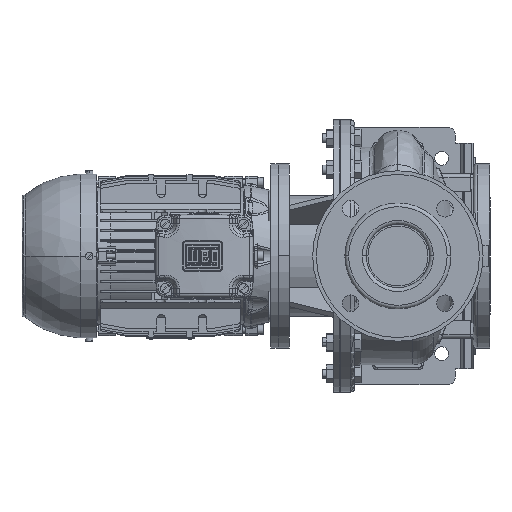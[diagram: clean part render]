
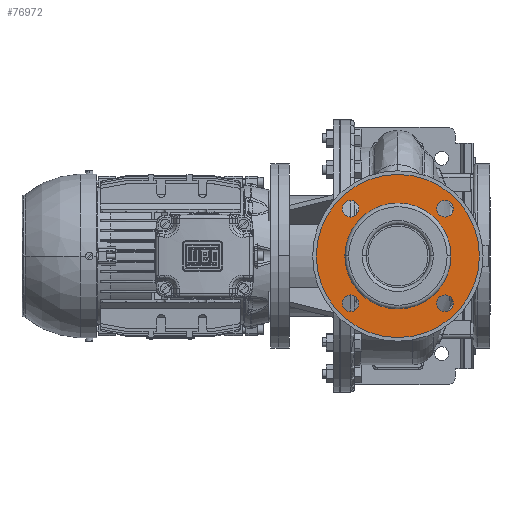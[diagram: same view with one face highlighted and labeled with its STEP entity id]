
A CAD part, left-side view. The second image highlights one B-rep face of the part: STEP entity #76972.
In plain terms, the highlighted planar face has unit normal (-1, 0, 0).
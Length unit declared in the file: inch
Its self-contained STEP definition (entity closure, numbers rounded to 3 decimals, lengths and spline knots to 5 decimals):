
#950 = EDGE_LOOP ( 'NONE', ( #142178, #117727 ) ) ;
#2086 = DIRECTION ( 'NONE',  ( 0., 0., 1. ) ) ;
#3126 = CARTESIAN_POINT ( 'NONE',  ( -7.40157, -7.13643, -2.01832 ) ) ;
#3345 = PLANE ( 'NONE',  #62217 ) ;
#3669 = VERTEX_POINT ( 'NONE', #133753 ) ;
#4113 = DIRECTION ( 'NONE',  ( 0., 1., 0. ) ) ;
#4598 = CARTESIAN_POINT ( 'NONE',  ( -7.40157, -5.11811, 0. ) ) ;
#7553 = VERTEX_POINT ( 'NONE', #99947 ) ;
#8574 = AXIS2_PLACEMENT_3D ( 'NONE', #3126, #38323, #128266 ) ;
#10359 = DIRECTION ( 'NONE',  ( 0., 1., 0. ) ) ;
#10775 = FACE_BOUND ( 'NONE', #74729, .T. ) ;
#11496 = ORIENTED_EDGE ( 'NONE', *, *, #160391, .T. ) ;
#12264 = VERTEX_POINT ( 'NONE', #76602 ) ;
#13244 = CARTESIAN_POINT ( 'NONE',  ( -7.40157, -2.85433, 0. ) ) ;
#14154 = AXIS2_PLACEMENT_3D ( 'NONE', #114139, #28224, #2086 ) ;
#16394 = CIRCLE ( 'NONE', #8574, 0.35433 ) ;
#18298 = ORIENTED_EDGE ( 'NONE', *, *, #154795, .T. ) ;
#18563 = EDGE_CURVE ( 'NONE', #113283, #12264, #110967, .T. ) ;
#20567 = DIRECTION ( 'NONE',  ( 0., -1., 0. ) ) ;
#25926 = CARTESIAN_POINT ( 'NONE',  ( -7.40157, -7.13643, -2.37265 ) ) ;
#26060 = DIRECTION ( 'NONE',  ( 1., 0., 0. ) ) ;
#27553 = CARTESIAN_POINT ( 'NONE',  ( -7.40157, -7.13643, 2.01832 ) ) ;
#27872 = DIRECTION ( 'NONE',  ( 0., 1., 0. ) ) ;
#28224 = DIRECTION ( 'NONE',  ( 1., 0., 0. ) ) ;
#30807 = AXIS2_PLACEMENT_3D ( 'NONE', #150966, #114148, #53538 ) ;
#33868 = VERTEX_POINT ( 'NONE', #44412 ) ;
#34190 = VERTEX_POINT ( 'NONE', #25926 ) ;
#37495 = AXIS2_PLACEMENT_3D ( 'NONE', #160605, #150784, #4113 ) ;
#38323 = DIRECTION ( 'NONE',  ( 1., 0., 0. ) ) ;
#38551 = FACE_BOUND ( 'NONE', #51125, .T. ) ;
#39790 = DIRECTION ( 'NONE',  ( 1., 0., 0. ) ) ;
#40400 = EDGE_LOOP ( 'NONE', ( #18298, #132520 ) ) ;
#40617 = AXIS2_PLACEMENT_3D ( 'NONE', #55457, #128338, #130744 ) ;
#41426 = DIRECTION ( 'NONE',  ( 0., 1., 0. ) ) ;
#43740 = CIRCLE ( 'NONE', #150823, 0.35433 ) ;
#43939 = CARTESIAN_POINT ( 'NONE',  ( -7.40157, -7.49076, 2.01832 ) ) ;
#44412 = CARTESIAN_POINT ( 'NONE',  ( -7.40157, -2.74546, -2.01832 ) ) ;
#48814 = EDGE_CURVE ( 'NONE', #113283, #12264, #81817, .T. ) ;
#51125 = EDGE_LOOP ( 'NONE', ( #125372, #151863 ) ) ;
#52202 = ORIENTED_EDGE ( 'NONE', *, *, #91606, .F. ) ;
#53095 = VERTEX_POINT ( 'NONE', #13244 ) ;
#53538 = DIRECTION ( 'NONE',  ( 0., 0., 1. ) ) ;
#54160 = EDGE_LOOP ( 'NONE', ( #160596, #11496 ) ) ;
#55457 = CARTESIAN_POINT ( 'NONE',  ( -7.40157, -5.11811, 0. ) ) ;
#56757 = CARTESIAN_POINT ( 'NONE',  ( -7.40157, -7.13643, -1.66399 ) ) ;
#59431 = DIRECTION ( 'NONE',  ( 1., 0., 0. ) ) ;
#60661 = FACE_BOUND ( 'NONE', #40400, .T. ) ;
#61974 = EDGE_CURVE ( 'NONE', #107838, #62780, #43740, .T. ) ;
#62066 = DIRECTION ( 'NONE',  ( 0., 0., -1. ) ) ;
#62217 = AXIS2_PLACEMENT_3D ( 'NONE', #112183, #153012, #27872 ) ;
#62780 = VERTEX_POINT ( 'NONE', #118412 ) ;
#64382 = DIRECTION ( 'NONE',  ( 0., 1., 0. ) ) ;
#65978 = DIRECTION ( 'NONE',  ( 1., 0., 0. ) ) ;
#71477 = CIRCLE ( 'NONE', #144577, 0.35433 ) ;
#74729 = EDGE_LOOP ( 'NONE', ( #52202, #99602 ) ) ;
#76602 = CARTESIAN_POINT ( 'NONE',  ( -7.40157, -8.60236, 0. ) ) ;
#76972 = ADVANCED_FACE ( 'NONE', ( #122853, #10775, #60661, #110544, #38551, #150609 ), #3345, .F. ) ;
#77078 = DIRECTION ( 'NONE',  ( 1., 0., 0. ) ) ;
#77384 = AXIS2_PLACEMENT_3D ( 'NONE', #86938, #77078, #137687 ) ;
#78964 = CIRCLE ( 'NONE', #107695, 0.35433 ) ;
#81493 = EDGE_LOOP ( 'NONE', ( #138480, #88352 ) ) ;
#81817 = CIRCLE ( 'NONE', #37495, 3.48425 ) ;
#83243 = CIRCLE ( 'NONE', #156459, 2.26378 ) ;
#84976 = CIRCLE ( 'NONE', #132046, 0.35433 ) ;
#86717 = VERTEX_POINT ( 'NONE', #56757 ) ;
#86938 = CARTESIAN_POINT ( 'NONE',  ( -7.40157, -3.09979, -2.01832 ) ) ;
#87705 = CARTESIAN_POINT ( 'NONE',  ( -7.40157, -7.38189, 0. ) ) ;
#88352 = ORIENTED_EDGE ( 'NONE', *, *, #48814, .T. ) ;
#91606 = EDGE_CURVE ( 'NONE', #53095, #96746, #118969, .T. ) ;
#96746 = VERTEX_POINT ( 'NONE', #87705 ) ;
#98465 = EDGE_CURVE ( 'NONE', #62780, #107838, #106453, .T. ) ;
#99602 = ORIENTED_EDGE ( 'NONE', *, *, #139159, .T. ) ;
#99947 = CARTESIAN_POINT ( 'NONE',  ( -7.40157, -6.7821, 2.01832 ) ) ;
#101785 = EDGE_CURVE ( 'NONE', #7553, #106343, #84976, .T. ) ;
#103642 = EDGE_CURVE ( 'NONE', #33868, #3669, #142692, .T. ) ;
#106343 = VERTEX_POINT ( 'NONE', #43939 ) ;
#106453 = CIRCLE ( 'NONE', #30807, 0.35433 ) ;
#107695 = AXIS2_PLACEMENT_3D ( 'NONE', #111867, #134799, #110238 ) ;
#107838 = VERTEX_POINT ( 'NONE', #157808 ) ;
#110238 = DIRECTION ( 'NONE',  ( 0., -1., 0. ) ) ;
#110544 = FACE_BOUND ( 'NONE', #54160, .T. ) ;
#110967 = CIRCLE ( 'NONE', #131876, 3.48425 ) ;
#111867 = CARTESIAN_POINT ( 'NONE',  ( -7.40157, -7.13643, 2.01832 ) ) ;
#112183 = CARTESIAN_POINT ( 'NONE',  ( -7.40157, -5.11811, 0. ) ) ;
#113283 = VERTEX_POINT ( 'NONE', #141660 ) ;
#114139 = CARTESIAN_POINT ( 'NONE',  ( -7.40157, -7.13643, -2.01832 ) ) ;
#114148 = DIRECTION ( 'NONE',  ( 1., 0., 0. ) ) ;
#117727 = ORIENTED_EDGE ( 'NONE', *, *, #61974, .T. ) ;
#118412 = CARTESIAN_POINT ( 'NONE',  ( -7.40157, -3.09979, 2.37265 ) ) ;
#118969 = CIRCLE ( 'NONE', #40617, 2.26378 ) ;
#122853 = FACE_OUTER_BOUND ( 'NONE', #81493, .T. ) ;
#123232 = CARTESIAN_POINT ( 'NONE',  ( -7.40157, -5.11811, 0. ) ) ;
#125372 = ORIENTED_EDGE ( 'NONE', *, *, #103642, .T. ) ;
#127046 = EDGE_CURVE ( 'NONE', #3669, #33868, #71477, .T. ) ;
#128266 = DIRECTION ( 'NONE',  ( 0., 0., -1. ) ) ;
#128338 = DIRECTION ( 'NONE',  ( -1., 0., 0. ) ) ;
#130744 = DIRECTION ( 'NONE',  ( 0., 1., 0. ) ) ;
#131876 = AXIS2_PLACEMENT_3D ( 'NONE', #4598, #39790, #41426 ) ;
#132046 = AXIS2_PLACEMENT_3D ( 'NONE', #27553, #65978, #64382 ) ;
#132520 = ORIENTED_EDGE ( 'NONE', *, *, #101785, .T. ) ;
#132638 = CARTESIAN_POINT ( 'NONE',  ( -7.40157, -3.09979, -2.01832 ) ) ;
#133753 = CARTESIAN_POINT ( 'NONE',  ( -7.40157, -3.45412, -2.01832 ) ) ;
#134799 = DIRECTION ( 'NONE',  ( 1., 0., 0. ) ) ;
#137687 = DIRECTION ( 'NONE',  ( 0., 1., 0. ) ) ;
#138149 = CARTESIAN_POINT ( 'NONE',  ( -7.40157, -3.09979, 2.01832 ) ) ;
#138480 = ORIENTED_EDGE ( 'NONE', *, *, #18563, .F. ) ;
#139159 = EDGE_CURVE ( 'NONE', #53095, #96746, #83243, .T. ) ;
#141660 = CARTESIAN_POINT ( 'NONE',  ( -7.40157, -1.63386, 0. ) ) ;
#142145 = CIRCLE ( 'NONE', #14154, 0.35433 ) ;
#142178 = ORIENTED_EDGE ( 'NONE', *, *, #98465, .T. ) ;
#142692 = CIRCLE ( 'NONE', #77384, 0.35433 ) ;
#144577 = AXIS2_PLACEMENT_3D ( 'NONE', #132638, #157951, #20567 ) ;
#150609 = FACE_BOUND ( 'NONE', #950, .T. ) ;
#150784 = DIRECTION ( 'NONE',  ( -1., 0., 0. ) ) ;
#150823 = AXIS2_PLACEMENT_3D ( 'NONE', #138149, #26060, #62066 ) ;
#150966 = CARTESIAN_POINT ( 'NONE',  ( -7.40157, -3.09979, 2.01832 ) ) ;
#151863 = ORIENTED_EDGE ( 'NONE', *, *, #127046, .T. ) ;
#153012 = DIRECTION ( 'NONE',  ( 1., 0., 0. ) ) ;
#154795 = EDGE_CURVE ( 'NONE', #106343, #7553, #78964, .T. ) ;
#155489 = EDGE_CURVE ( 'NONE', #34190, #86717, #16394, .T. ) ;
#156459 = AXIS2_PLACEMENT_3D ( 'NONE', #123232, #59431, #10359 ) ;
#157808 = CARTESIAN_POINT ( 'NONE',  ( -7.40157, -3.09979, 1.66399 ) ) ;
#157951 = DIRECTION ( 'NONE',  ( 1., 0., 0. ) ) ;
#160391 = EDGE_CURVE ( 'NONE', #86717, #34190, #142145, .T. ) ;
#160596 = ORIENTED_EDGE ( 'NONE', *, *, #155489, .T. ) ;
#160605 = CARTESIAN_POINT ( 'NONE',  ( -7.40157, -5.11811, 0. ) ) ;
